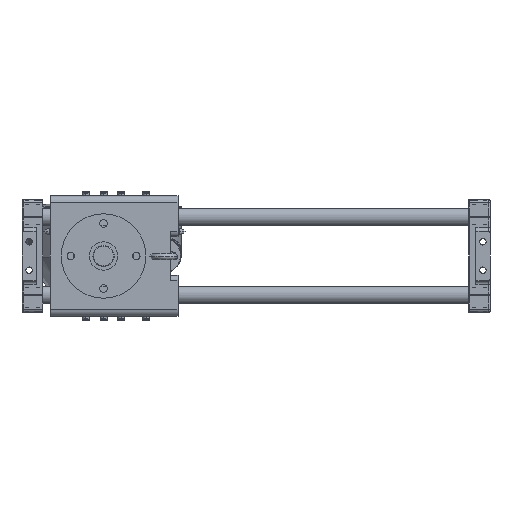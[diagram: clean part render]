
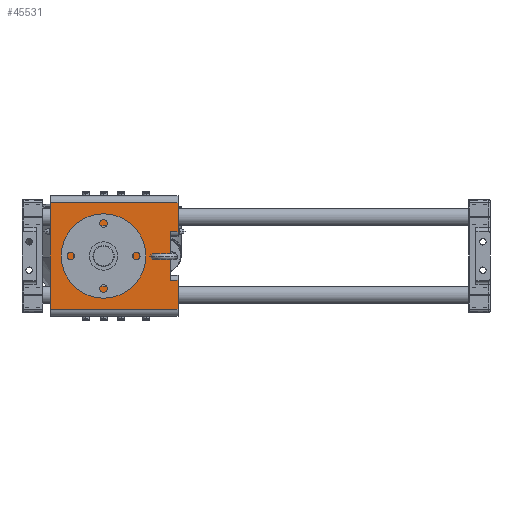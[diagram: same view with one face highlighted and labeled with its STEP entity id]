
A CAD part, front view. The second image highlights one B-rep face of the part: STEP entity #45531.
In plain terms, the highlighted planar face has unit normal (0, -1, 0).
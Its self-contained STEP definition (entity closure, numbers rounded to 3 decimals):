
#44916=CARTESIAN_POINT('',(0.,711.5,0.));
#44917=DIRECTION('',(0.,-1.,0.));
#44918=DIRECTION('',(0.,0.,-1.));
#44919=AXIS2_PLACEMENT_3D('',#44916,#44917,#44918);
#44921=CARTESIAN_POINT('',(0.,711.5,0.));
#44922=DIRECTION('',(0.,-1.,0.));
#44923=DIRECTION('',(0.,0.,1.));
#44924=AXIS2_PLACEMENT_3D('',#44921,#44922,#44923);
#44926=CARTESIAN_POINT('',(-24.749,711.5,-24.749));
#44927=DIRECTION('',(0.,-1.,0.));
#44928=DIRECTION('',(0.,0.,1.));
#44929=AXIS2_PLACEMENT_3D('',#44926,#44927,#44928);
#44931=CARTESIAN_POINT('',(-24.749,711.5,-24.749));
#44932=DIRECTION('',(0.,-1.,0.));
#44933=DIRECTION('',(0.,0.,-1.));
#44934=AXIS2_PLACEMENT_3D('',#44931,#44932,#44933);
#44936=CARTESIAN_POINT('',(24.749,711.5,-24.749));
#44937=DIRECTION('',(0.,-1.,0.));
#44938=DIRECTION('',(-1.,0.,0.));
#44939=AXIS2_PLACEMENT_3D('',#44936,#44937,#44938);
#44941=CARTESIAN_POINT('',(24.749,711.5,-24.749));
#44942=DIRECTION('',(0.,-1.,0.));
#44943=DIRECTION('',(1.,0.,0.));
#44944=AXIS2_PLACEMENT_3D('',#44941,#44942,#44943);
#44946=CARTESIAN_POINT('',(24.749,711.5,24.749));
#44947=DIRECTION('',(0.,-1.,0.));
#44948=DIRECTION('',(0.,0.,-1.));
#44949=AXIS2_PLACEMENT_3D('',#44946,#44947,#44948);
#44951=CARTESIAN_POINT('',(24.749,711.5,24.749));
#44952=DIRECTION('',(0.,-1.,0.));
#44953=DIRECTION('',(0.,0.,1.));
#44954=AXIS2_PLACEMENT_3D('',#44951,#44952,#44953);
#44956=CARTESIAN_POINT('',(-24.749,711.5,24.749));
#44957=DIRECTION('',(0.,-1.,0.));
#44958=DIRECTION('',(1.,0.,0.));
#44959=AXIS2_PLACEMENT_3D('',#44956,#44957,#44958);
#44961=CARTESIAN_POINT('',(-24.749,711.5,24.749));
#44962=DIRECTION('',(0.,-1.,0.));
#44963=DIRECTION('',(-1.,0.,0.));
#44964=AXIS2_PLACEMENT_3D('',#44961,#44962,#44963);
#44966=DIRECTION('',(-1.,0.,0.));
#44967=VECTOR('',#44966,180.);
#44968=CARTESIAN_POINT('',(105.,711.5,75.));
#44969=LINE('',#44968,#44967);
#44970=DIRECTION('',(0.,0.,-1.));
#44971=VECTOR('',#44970,40.5);
#44972=CARTESIAN_POINT('',(105.,711.5,75.));
#44973=LINE('',#44972,#44971);
#44974=DIRECTION('',(1.,0.,0.));
#44975=VECTOR('',#44974,10.);
#44976=CARTESIAN_POINT('',(95.,711.5,34.5));
#44977=LINE('',#44976,#44975);
#44978=DIRECTION('',(-1.,0.,0.));
#44979=VECTOR('',#44978,10.);
#44980=CARTESIAN_POINT('',(105.,711.5,-34.5));
#44981=LINE('',#44980,#44979);
#44982=DIRECTION('',(0.,0.,-1.));
#44983=VECTOR('',#44982,40.5);
#44984=CARTESIAN_POINT('',(105.,711.5,-34.5));
#44985=LINE('',#44984,#44983);
#44986=DIRECTION('',(1.,0.,0.));
#44987=VECTOR('',#44986,180.);
#44988=CARTESIAN_POINT('',(-75.,711.5,-75.));
#44989=LINE('',#44988,#44987);
#44990=DIRECTION('',(0.,0.,1.));
#44991=VECTOR('',#44990,150.);
#44992=CARTESIAN_POINT('',(-75.,711.5,-75.));
#44993=LINE('',#44992,#44991);
#45279=DIRECTION('',(0.,0.,1.));
#45280=VECTOR('',#45279,69.);
#45281=CARTESIAN_POINT('',(95.,711.5,-34.5));
#45282=LINE('',#45281,#45280);
#45330=CARTESIAN_POINT('',(0.,711.5,-25.));
#45331=CARTESIAN_POINT('',(0.,711.5,25.));
#45332=VERTEX_POINT('',#45330);
#45333=VERTEX_POINT('',#45331);
#45354=CARTESIAN_POINT('',(-24.749,711.5,-28.149));
#45355=CARTESIAN_POINT('',(-24.749,711.5,-21.349));
#45356=VERTEX_POINT('',#45354);
#45357=VERTEX_POINT('',#45355);
#45358=CARTESIAN_POINT('',(28.149,711.5,-24.749));
#45359=CARTESIAN_POINT('',(21.349,711.5,-24.749));
#45360=VERTEX_POINT('',#45358);
#45361=VERTEX_POINT('',#45359);
#45362=CARTESIAN_POINT('',(24.749,711.5,28.149));
#45363=CARTESIAN_POINT('',(24.749,711.5,21.349));
#45364=VERTEX_POINT('',#45362);
#45365=VERTEX_POINT('',#45363);
#45366=CARTESIAN_POINT('',(-28.149,711.5,24.749));
#45367=CARTESIAN_POINT('',(-21.349,711.5,24.749));
#45368=VERTEX_POINT('',#45366);
#45369=VERTEX_POINT('',#45367);
#45414=CARTESIAN_POINT('',(105.,711.5,34.5));
#45416=VERTEX_POINT('',#45414);
#45420=CARTESIAN_POINT('',(95.,711.5,34.5));
#45421=VERTEX_POINT('',#45420);
#45426=CARTESIAN_POINT('',(105.,711.5,-34.5));
#45427=VERTEX_POINT('',#45426);
#45428=CARTESIAN_POINT('',(95.,711.5,-34.5));
#45429=VERTEX_POINT('',#45428);
#45446=CARTESIAN_POINT('',(-75.,711.5,75.));
#45448=VERTEX_POINT('',#45446);
#45452=CARTESIAN_POINT('',(105.,711.5,75.));
#45453=VERTEX_POINT('',#45452);
#45454=CARTESIAN_POINT('',(105.,711.5,-75.));
#45456=VERTEX_POINT('',#45454);
#45460=CARTESIAN_POINT('',(-75.,711.5,-75.));
#45461=VERTEX_POINT('',#45460);
#45478=CARTESIAN_POINT('',(0.,711.5,0.));
#45479=DIRECTION('',(0.,1.,0.));
#45480=DIRECTION('',(0.,0.,-1.));
#45481=AXIS2_PLACEMENT_3D('',#45478,#45479,#45480);
#45482=PLANE('',#45481);
#45484=ORIENTED_EDGE('',*,*,#45483,.F.);
#45486=ORIENTED_EDGE('',*,*,#45485,.T.);
#45488=ORIENTED_EDGE('',*,*,#45487,.F.);
#45490=ORIENTED_EDGE('',*,*,#45489,.F.);
#45492=ORIENTED_EDGE('',*,*,#45491,.F.);
#45494=ORIENTED_EDGE('',*,*,#45493,.T.);
#45496=ORIENTED_EDGE('',*,*,#45495,.F.);
#45498=ORIENTED_EDGE('',*,*,#45497,.T.);
#45499=EDGE_LOOP('',(#45484,#45486,#45488,#45490,#45492,#45494,#45496,#45498));
#45500=FACE_OUTER_BOUND('',#45499,.F.);
#45502=ORIENTED_EDGE('',*,*,#45501,.T.);
#45504=ORIENTED_EDGE('',*,*,#45503,.T.);
#45505=EDGE_LOOP('',(#45502,#45504));
#45506=FACE_BOUND('',#45505,.F.);
#45508=ORIENTED_EDGE('',*,*,#45507,.T.);
#45510=ORIENTED_EDGE('',*,*,#45509,.T.);
#45511=EDGE_LOOP('',(#45508,#45510));
#45512=FACE_BOUND('',#45511,.F.);
#45514=ORIENTED_EDGE('',*,*,#45513,.T.);
#45516=ORIENTED_EDGE('',*,*,#45515,.T.);
#45517=EDGE_LOOP('',(#45514,#45516));
#45518=FACE_BOUND('',#45517,.F.);
#45520=ORIENTED_EDGE('',*,*,#45519,.T.);
#45522=ORIENTED_EDGE('',*,*,#45521,.T.);
#45523=EDGE_LOOP('',(#45520,#45522));
#45524=FACE_BOUND('',#45523,.F.);
#45526=ORIENTED_EDGE('',*,*,#45525,.T.);
#45528=ORIENTED_EDGE('',*,*,#45527,.T.);
#45529=EDGE_LOOP('',(#45526,#45528));
#45530=FACE_BOUND('',#45529,.F.);
#44920=CIRCLE('',#44919,25.);
#44925=CIRCLE('',#44924,25.);
#44930=CIRCLE('',#44929,3.4);
#44935=CIRCLE('',#44934,3.4);
#44940=CIRCLE('',#44939,3.4);
#44945=CIRCLE('',#44944,3.4);
#44950=CIRCLE('',#44949,3.4);
#44955=CIRCLE('',#44954,3.4);
#44960=CIRCLE('',#44959,3.4);
#44965=CIRCLE('',#44964,3.4);
#45483=EDGE_CURVE('',#45453,#45448,#44969,.T.);
#45485=EDGE_CURVE('',#45453,#45416,#44973,.T.);
#45487=EDGE_CURVE('',#45421,#45416,#44977,.T.);
#45489=EDGE_CURVE('',#45429,#45421,#45282,.T.);
#45491=EDGE_CURVE('',#45427,#45429,#44981,.T.);
#45493=EDGE_CURVE('',#45427,#45456,#44985,.T.);
#45495=EDGE_CURVE('',#45461,#45456,#44989,.T.);
#45497=EDGE_CURVE('',#45461,#45448,#44993,.T.);
#45501=EDGE_CURVE('',#45357,#45356,#44930,.T.);
#45503=EDGE_CURVE('',#45356,#45357,#44935,.T.);
#45507=EDGE_CURVE('',#45361,#45360,#44940,.T.);
#45509=EDGE_CURVE('',#45360,#45361,#44945,.T.);
#45513=EDGE_CURVE('',#45365,#45364,#44950,.T.);
#45515=EDGE_CURVE('',#45364,#45365,#44955,.T.);
#45519=EDGE_CURVE('',#45369,#45368,#44960,.T.);
#45521=EDGE_CURVE('',#45368,#45369,#44965,.T.);
#45525=EDGE_CURVE('',#45332,#45333,#44920,.T.);
#45527=EDGE_CURVE('',#45333,#45332,#44925,.T.);
#45531=ADVANCED_FACE('',(#45500,#45506,#45512,#45518,#45524,#45530),#45482,.F.);
